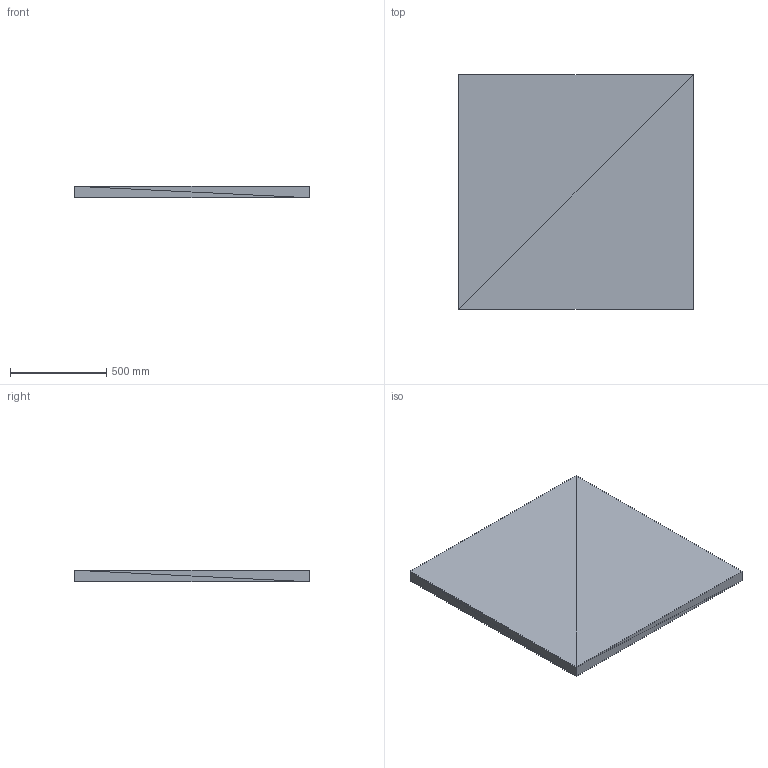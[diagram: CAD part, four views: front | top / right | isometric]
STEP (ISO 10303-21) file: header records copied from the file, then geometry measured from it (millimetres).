
FILE_DESCRIPTION(('ISINAC STEP AP214'),'2;1');
FILE_NAME('ISINAC_C.1220_60mm_ADHESIVO','2026-05-03T10:49:19',('ISINAC'),('www.isinac.com'),'ISINAC BIM Generator 1.0','','');
FILE_SCHEMA(('AUTOMOTIVE_DESIGN'));
Length unit declared in the file: millimetre
Products named in the file (1): ISINAC_C.1220_60mm_ADHESIVO
Bounding box: 1220 x 1220 x 60 mm (x, y, z)
Surface area: 3269600 mm2 (no closed solid volume)
Topology: 0 solids, 12 shells, 12 faces, 36 edges, 36 vertices
Faces by surface type: plane 12
Entity records: 145 total; most frequent: CARTESIAN_POINT 48, DIRECTION 24, POLY_LOOP 12, FACE_OUTER_BOUND 12, AXIS2_PLACEMENT_3D 12, PLANE 12, FACE_SURFACE 12, CLOSED_SHELL 1
